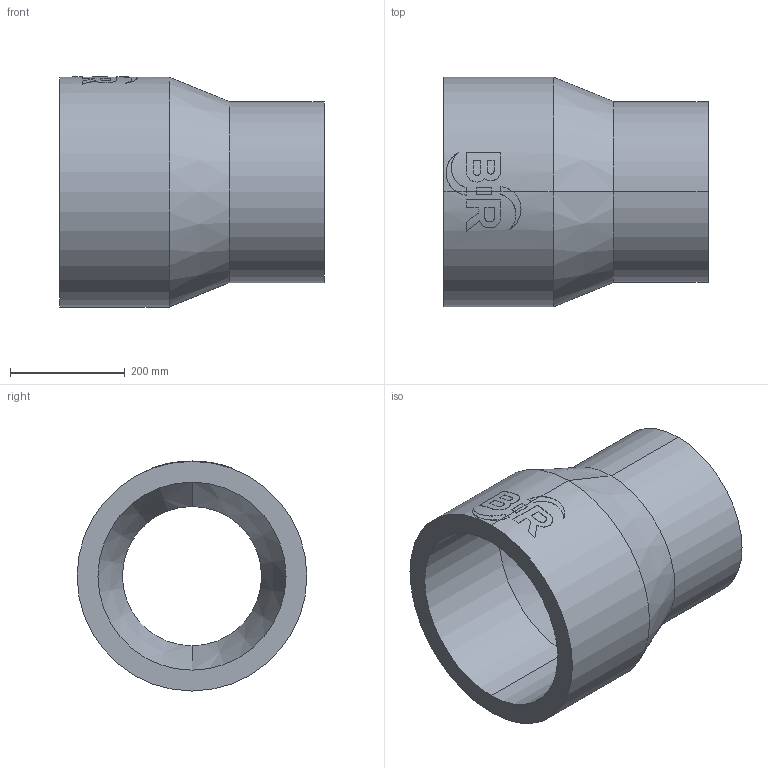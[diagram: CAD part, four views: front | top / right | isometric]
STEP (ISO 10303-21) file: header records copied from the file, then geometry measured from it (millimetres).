
FILE_DESCRIPTION (( 'STEP AP214' ), '1' );
FILE_NAME ('2323252315.STEP', '2018-07-20T11:50:23', ( '' ), ( '' ), 'SwSTEP 2.0', 'SolidWorks 2017', '' );
FILE_SCHEMA (( 'AUTOMOTIVE_DESIGN' ));
Length unit declared in the file: millimetre
Products named in the file (1): 2323252315
Bounding box: 460 x 400 x 400.46 mm (x, y, z)
Volume: 17242600.3 mm3; surface area: 1023645.7 mm2
Topology: 1 solids, 1 shells, 63 faces, 160 edges, 104 vertices
Faces by surface type: cylinder 31, plane 28, cone 4
Entity records: 3476 total; most frequent: CARTESIAN_POINT 1267, ORIENTED_EDGE 320, DIRECTION 296, EDGE_CURVE 160, AXIS2_PLACEMENT_3D 112, VERTEX_POINT 104, VECTOR 72, LINE 72
